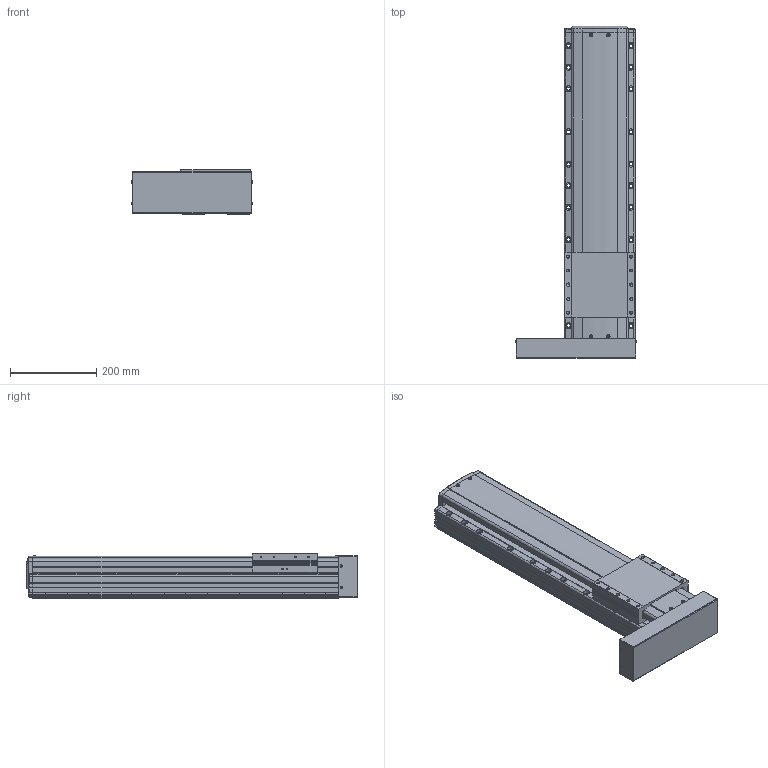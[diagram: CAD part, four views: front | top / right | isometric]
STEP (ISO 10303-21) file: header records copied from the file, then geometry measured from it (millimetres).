
FILE_DESCRIPTION(('STEP AP214'),'1');
FILE_NAME('Z:/Web/3D/PSA165/STP/PSA165-450 (3D)/PSA165ㅁㅁ-450PL.stp','2014-06-23T11:20:38',(' '),(' '),'Spatial InterOp 3D',' ',' ');
FILE_SCHEMA(('automotive_design'));
Length unit declared in the file: millimetre
Products named in the file (23): 스크루 : Round - M4.0 x 12.0; RRCV-PA160; BASE; 스크루 : Round - M4.0 x 10.0; RN15; Screw 20; SLIDE; FRCV; MTPL; 스크루 : Round - M3.0 x 6.0
Bounding box: 281.93 x 770.8 x 104 mm (x, y, z)
Volume: 11299578.1 mm3; surface area: 777749.1 mm2
Topology: 23 solids, 23 shells, 1995 faces, 5381 edges, 3429 vertices
Faces by surface type: plane 1084, cylinder 641, cone 185, sphere 44, bspline 25, torus 16
Entity records: 81447 total; most frequent: CARTESIAN_POINT 14698, DIRECTION 10607, ORIENTED_EDGE 10486, EDGE_CURVE 5243, AXIS2_PLACEMENT_3D 3552, LINE 3503, VECTOR 3503, VERTEX_POINT 3429
